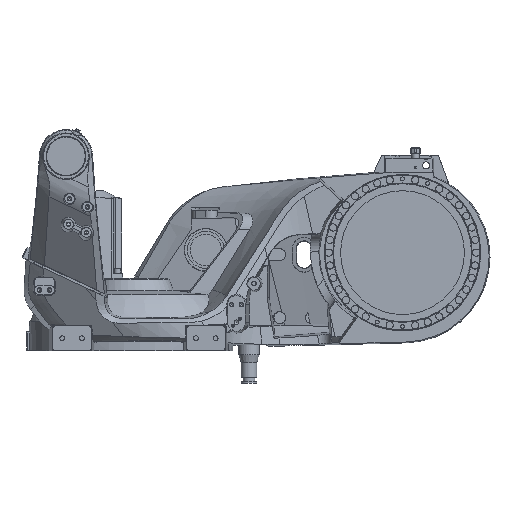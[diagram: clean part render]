
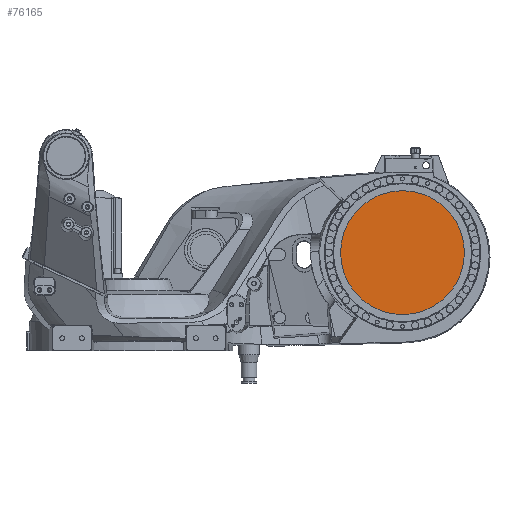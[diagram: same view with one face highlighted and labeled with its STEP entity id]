
A CAD part, front view. The second image highlights one B-rep face of the part: STEP entity #76165.
In plain terms, the highlighted planar face has unit normal (0, -1, 0).
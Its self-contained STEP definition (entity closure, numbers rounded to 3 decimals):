
#4787 = AXIS2_PLACEMENT_3D ( 'NONE', #64599, #86855, #94788 ) ;
#12887 = AXIS2_PLACEMENT_3D ( 'NONE', #87256, #80350, #88810 ) ;
#13271 = VERTEX_POINT ( 'NONE', #28085 ) ;
#28085 = CARTESIAN_POINT ( 'NONE',  ( 532.5, -153.5, 530. ) ) ;
#38957 = ORIENTED_EDGE ( 'NONE', *, *, #84736, .T. ) ;
#48034 = FACE_OUTER_BOUND ( 'NONE', #82511, .T. ) ;
#64599 = CARTESIAN_POINT ( 'NONE',  ( 690., -153.5, 530. ) ) ;
#65604 = CIRCLE ( 'NONE', #4787, 157.5 ) ;
#70884 = PLANE ( 'NONE',  #12887 ) ;
#76165 = ADVANCED_FACE ( 'NONE', ( #48034 ), #70884, .F. ) ;
#80350 = DIRECTION ( 'NONE',  ( 0., 1., 0. ) ) ;
#82511 = EDGE_LOOP ( 'NONE', ( #38957 ) ) ;
#84736 = EDGE_CURVE ( 'NONE', #13271, #13271, #65604, .T. ) ;
#86855 = DIRECTION ( 'NONE',  ( 0., -1., 0. ) ) ;
#87256 = CARTESIAN_POINT ( 'NONE',  ( 611.558, -153.5, 484.711 ) ) ;
#88810 = DIRECTION ( 'NONE',  ( 0.866, 0., 0.5 ) ) ;
#94788 = DIRECTION ( 'NONE',  ( -1., 0., 0. ) ) ;
